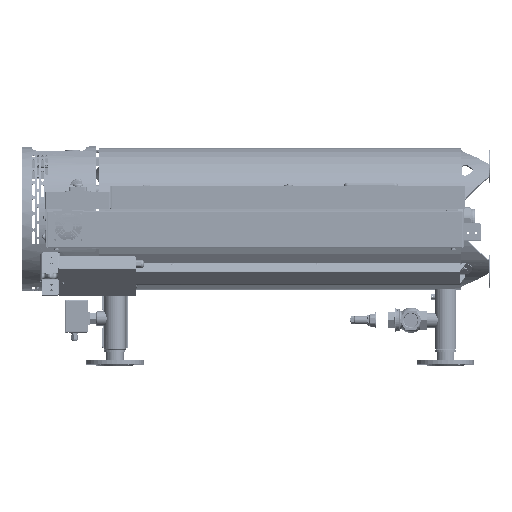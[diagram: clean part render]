
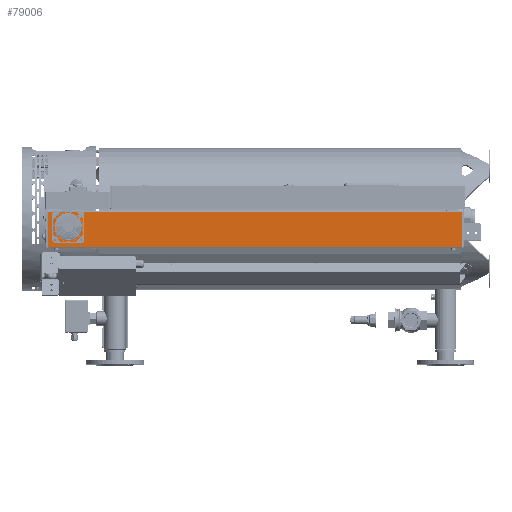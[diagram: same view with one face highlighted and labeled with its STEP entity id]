
A CAD part, left-side view. The second image highlights one B-rep face of the part: STEP entity #79006.
In plain terms, the highlighted planar face has unit normal (-1, 0, 0).
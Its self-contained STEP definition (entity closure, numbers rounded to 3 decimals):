
#2316=FACE_BOUND('',#22083,.T.);
#2317=FACE_BOUND('',#22084,.T.);
#2318=FACE_BOUND('',#22085,.T.);
#2319=FACE_BOUND('',#22086,.T.);
#2320=FACE_BOUND('',#22087,.T.);
#5684=LINE('',#119413,#11891);
#5703=LINE('',#119474,#11910);
#5704=LINE('',#119477,#11911);
#5705=LINE('',#119478,#11912);
#11891=VECTOR('',#95947,10.);
#11910=VECTOR('',#96006,10.);
#11911=VECTOR('',#96009,10.);
#11912=VECTOR('',#96010,10.);
#17906=FACE_OUTER_BOUND('',#22082,.T.);
#22082=EDGE_LOOP('',(#55062,#55063,#55064,#55065));
#22083=EDGE_LOOP('',(#55066,#55067));
#22084=EDGE_LOOP('',(#55068));
#22085=EDGE_LOOP('',(#55069));
#22086=EDGE_LOOP('',(#55070));
#22087=EDGE_LOOP('',(#55071));
#27199=CIRCLE('',#84584,37.5);
#27200=CIRCLE('',#84585,37.5);
#27217=CIRCLE('',#84613,2.75);
#27218=CIRCLE('',#84614,2.75);
#27219=CIRCLE('',#84615,2.75);
#27220=CIRCLE('',#84616,2.75);
#32505=VERTEX_POINT('',#119381);
#32508=VERTEX_POINT('',#119391);
#32509=VERTEX_POINT('',#119393);
#32514=VERTEX_POINT('',#119406);
#32535=VERTEX_POINT('',#119463);
#32538=VERTEX_POINT('',#119476);
#32539=VERTEX_POINT('',#119479);
#32540=VERTEX_POINT('',#119481);
#32541=VERTEX_POINT('',#119483);
#32542=VERTEX_POINT('',#119485);
#41518=EDGE_CURVE('',#32509,#32508,#27199,.T.);
#41519=EDGE_CURVE('',#32508,#32509,#27200,.T.);
#41528=EDGE_CURVE('',#32505,#32514,#5684,.T.);
#41560=EDGE_CURVE('',#32514,#32535,#5703,.T.);
#41561=EDGE_CURVE('',#32535,#32538,#5704,.T.);
#41562=EDGE_CURVE('',#32538,#32505,#5705,.T.);
#41563=EDGE_CURVE('',#32539,#32539,#27217,.T.);
#41564=EDGE_CURVE('',#32540,#32540,#27218,.T.);
#41565=EDGE_CURVE('',#32541,#32541,#27219,.T.);
#41566=EDGE_CURVE('',#32542,#32542,#27220,.T.);
#55062=ORIENTED_EDGE('',*,*,#41561,.T.);
#55063=ORIENTED_EDGE('',*,*,#41562,.T.);
#55064=ORIENTED_EDGE('',*,*,#41528,.T.);
#55065=ORIENTED_EDGE('',*,*,#41560,.T.);
#55066=ORIENTED_EDGE('',*,*,#41518,.T.);
#55067=ORIENTED_EDGE('',*,*,#41519,.T.);
#55068=ORIENTED_EDGE('',*,*,#41563,.T.);
#55069=ORIENTED_EDGE('',*,*,#41564,.T.);
#55070=ORIENTED_EDGE('',*,*,#41565,.T.);
#55071=ORIENTED_EDGE('',*,*,#41566,.T.);
#73003=PLANE('',#84612);
#79006=ADVANCED_FACE('',(#17906,#2316,#2317,#2318,#2319,#2320),#73003,.T.);
#84584=AXIS2_PLACEMENT_3D('',#119394,#95926,#95927);
#84585=AXIS2_PLACEMENT_3D('',#119395,#95928,#95929);
#84612=AXIS2_PLACEMENT_3D('',#119475,#96007,#96008);
#84613=AXIS2_PLACEMENT_3D('',#119480,#96011,#96012);
#84614=AXIS2_PLACEMENT_3D('',#119482,#96013,#96014);
#84615=AXIS2_PLACEMENT_3D('',#119484,#96015,#96016);
#84616=AXIS2_PLACEMENT_3D('',#119486,#96017,#96018);
#95926=DIRECTION('center_axis',(1.,0.,0.));
#95927=DIRECTION('ref_axis',(0.,-1.,0.));
#95928=DIRECTION('center_axis',(1.,0.,0.));
#95929=DIRECTION('ref_axis',(0.,-1.,0.));
#95947=DIRECTION('',(0.,-1.,0.));
#96006=DIRECTION('',(0.,0.,1.));
#96007=DIRECTION('center_axis',(-1.,0.,0.));
#96008=DIRECTION('ref_axis',(0.,-1.,0.));
#96009=DIRECTION('',(0.,1.,0.));
#96010=DIRECTION('',(0.,0.,-1.));
#96011=DIRECTION('center_axis',(1.,0.,0.));
#96012=DIRECTION('ref_axis',(0.,-1.,0.));
#96013=DIRECTION('center_axis',(1.,0.,0.));
#96014=DIRECTION('ref_axis',(0.,-1.,0.));
#96015=DIRECTION('center_axis',(1.,0.,0.));
#96016=DIRECTION('ref_axis',(0.,-1.,0.));
#96017=DIRECTION('center_axis',(1.,0.,0.));
#96018=DIRECTION('ref_axis',(0.,-1.,0.));
#119381=CARTESIAN_POINT('',(715.371,280.395,-270.413));
#119391=CARTESIAN_POINT('',(715.371,260.995,-214.413));
#119393=CARTESIAN_POINT('',(715.371,185.995,-214.413));
#119394=CARTESIAN_POINT('Origin',(715.371,223.495,-214.413));
#119395=CARTESIAN_POINT('Origin',(715.371,223.495,-214.413));
#119406=CARTESIAN_POINT('',(715.371,-862.405,-270.413));
#119413=CARTESIAN_POINT('',(715.371,-291.005,-270.413));
#119463=CARTESIAN_POINT('',(715.371,-862.405,-172.413));
#119474=CARTESIAN_POINT('',(715.371,-862.405,-246.228));
#119475=CARTESIAN_POINT('Origin',(715.371,-291.005,-222.044));
#119476=CARTESIAN_POINT('',(715.371,280.395,-172.413));
#119477=CARTESIAN_POINT('',(715.371,-576.705,-172.413));
#119478=CARTESIAN_POINT('',(715.371,280.395,-196.728));
#119479=CARTESIAN_POINT('',(715.371,184.995,-178.663));
#119480=CARTESIAN_POINT('Origin',(715.371,187.745,-178.663));
#119481=CARTESIAN_POINT('',(715.371,256.495,-178.663));
#119482=CARTESIAN_POINT('Origin',(715.371,259.245,-178.663));
#119483=CARTESIAN_POINT('',(715.371,184.995,-250.163));
#119484=CARTESIAN_POINT('Origin',(715.371,187.745,-250.163));
#119485=CARTESIAN_POINT('',(715.371,256.495,-250.163));
#119486=CARTESIAN_POINT('Origin',(715.371,259.245,-250.163));
